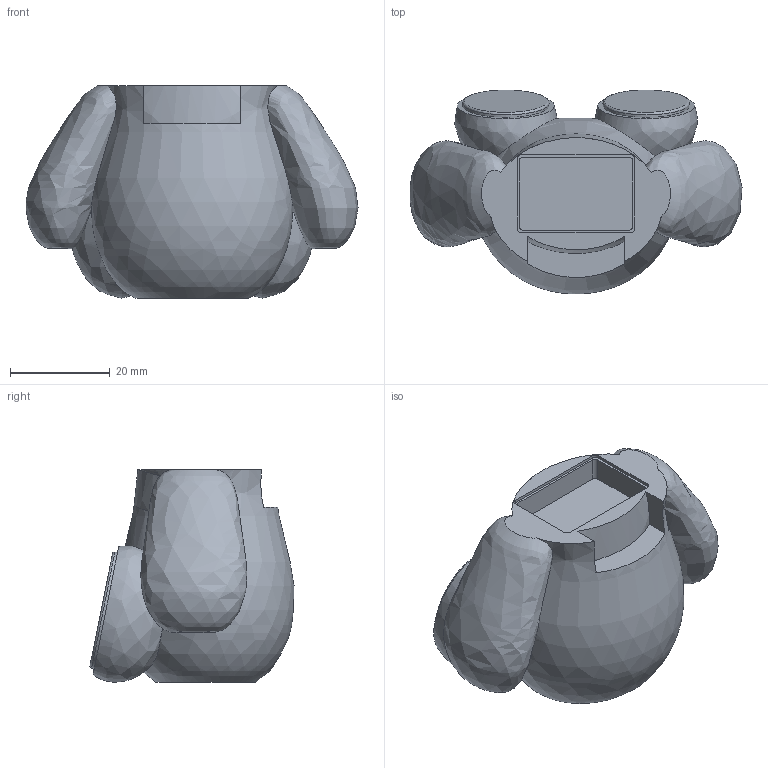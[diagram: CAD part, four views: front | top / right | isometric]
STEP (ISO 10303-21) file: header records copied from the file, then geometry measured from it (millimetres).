
FILE_DESCRIPTION(('Open CASCADE Model'),'2;1');
FILE_NAME('Open CASCADE Shape Model','2026-09-28T19:49:13',('Author'),( 'Open CASCADE'),'Open CASCADE STEP processor 7.8','Open CASCADE 7.8' ,'Unknown');
FILE_SCHEMA(('AUTOMOTIVE_DESIGN { 1 0 10303 214 1 1 1 1 }'));
Length unit declared in the file: millimetre
Products named in the file (1): Open CASCADE STEP translator 7.8 1
Bounding box: 66.43 x 40.82 x 42.5 mm (x, y, z)
Volume: 53217 mm3; surface area: 10465.8 mm2
Topology: 1 solids, 1 shells, 44 faces, 106 edges, 70 vertices
Faces by surface type: bspline 25, plane 11, cylinder 8
Entity records: 14617 total; most frequent: CARTESIAN_POINT 12861, ORIENTED_EDGE 212, PCURVE 212, DEFINITIONAL_REPRESENTATION 212, B_SPLINE_CURVE_WITH_KNOTS 188, DIRECTION 182, EDGE_CURVE 106, SURFACE_CURVE 97
